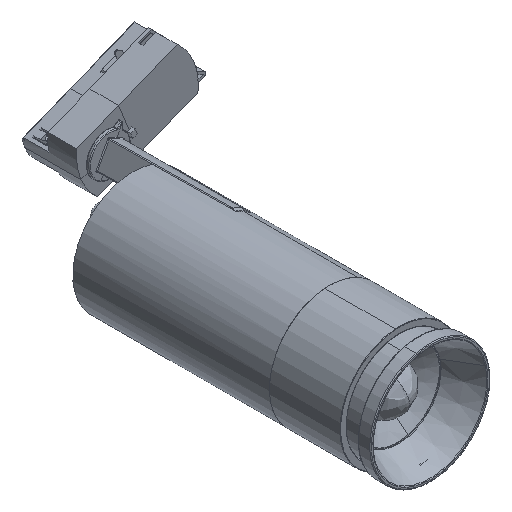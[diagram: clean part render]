
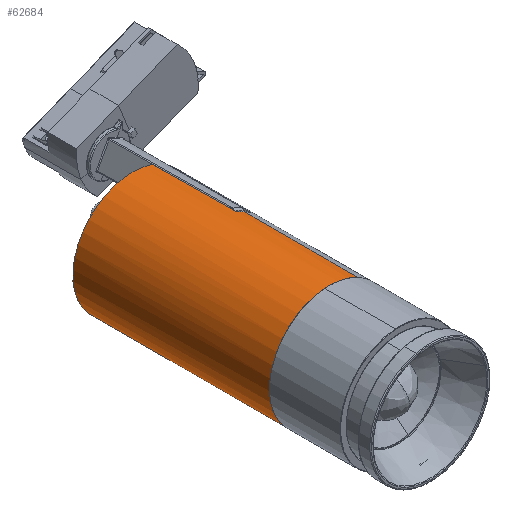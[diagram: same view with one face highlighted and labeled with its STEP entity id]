
A CAD part, isometric view. The second image highlights one B-rep face of the part: STEP entity #62684.
In plain terms, the highlighted cylindrical face has radius 36.4 mm (diameter 72.8 mm), a partial arc.
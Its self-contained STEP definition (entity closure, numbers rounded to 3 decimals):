
#1407 = AXIS2_PLACEMENT_3D ( 'NONE', #88834, #113769, #163424 ) ;
#3470 = AXIS2_PLACEMENT_3D ( 'NONE', #116935, #189360, #215324 ) ;
#4759 = CARTESIAN_POINT ( 'NONE',  ( 4.814, 49.781, 36.08 ) ) ;
#6800 = CYLINDRICAL_SURFACE ( 'NONE', #1407, 36.4 ) ;
#9910 = ORIENTED_EDGE ( 'NONE', *, *, #86764, .F. ) ;
#24235 = CARTESIAN_POINT ( 'NONE',  ( 5.147, 32.981, 36.036 ) ) ;
#25148 = CARTESIAN_POINT ( 'NONE',  ( 0., 50.5, 0. ) ) ;
#27458 = CARTESIAN_POINT ( 'NONE',  ( 5.474, 16.473, 35.988 ) ) ;
#30107 = FACE_OUTER_BOUND ( 'NONE', #258178, .T. ) ;
#36418 = ORIENTED_EDGE ( 'NONE', *, *, #225653, .T. ) ;
#37042 = CARTESIAN_POINT ( 'NONE',  ( 0., 50.5, 36.4 ) ) ;
#41240 = EDGE_CURVE ( 'NONE', #164980, #252282, #287509, .T. ) ;
#43424 = EDGE_CURVE ( 'NONE', #205032, #97756, #121392, .T. ) ;
#54213 = DIRECTION ( 'NONE',  ( 0., 1., 0. ) ) ;
#54655 = AXIS2_PLACEMENT_3D ( 'NONE', #25148, #54213, #276956 ) ;
#54686 = CIRCLE ( 'NONE', #54655, 36.4 ) ;
#56586 = CARTESIAN_POINT ( 'NONE',  ( 4.819, 49.52, 36.08 ) ) ;
#60956 = VERTEX_POINT ( 'NONE', #37042 ) ;
#62684 = ADVANCED_FACE ( 'NONE', ( #30107 ), #6800, .T. ) ;
#77047 = CARTESIAN_POINT ( 'NONE',  ( 5.8, 0., 35.935 ) ) ;
#86764 = EDGE_CURVE ( 'NONE', #60956, #97756, #134852, .T. ) ;
#88834 = CARTESIAN_POINT ( 'NONE',  ( 0., 146.176, 0. ) ) ;
#95276 = CARTESIAN_POINT ( 'NONE',  ( 0., 119.4, 36.4 ) ) ;
#97079 = DIRECTION ( 'NONE',  ( 0., 0., 1. ) ) ;
#97756 = VERTEX_POINT ( 'NONE', #95276 ) ;
#99204 = EDGE_CURVE ( 'NONE', #252282, #277017, #133949, .T. ) ;
#109334 = ORIENTED_EDGE ( 'NONE', *, *, #132237, .T. ) ;
#111064 = CARTESIAN_POINT ( 'NONE',  ( 0., 0., -36.4 ) ) ;
#112181 = ORIENTED_EDGE ( 'NONE', *, *, #278705, .T. ) ;
#113769 = DIRECTION ( 'NONE',  ( 0., 1., 0. ) ) ;
#116935 = CARTESIAN_POINT ( 'NONE',  ( 0., 0., 0. ) ) ;
#121392 = CIRCLE ( 'NONE', #208826, 36.4 ) ;
#123897 = CARTESIAN_POINT ( 'NONE',  ( 5.8, 0., 35.935 ) ) ;
#126806 = VECTOR ( 'NONE', #307933, 1000. ) ;
#128990 = CARTESIAN_POINT ( 'NONE',  ( 3.95, 50.5, 36.185 ) ) ;
#132237 = EDGE_CURVE ( 'NONE', #60956, #153491, #54686, .T. ) ;
#133949 = CIRCLE ( 'NONE', #3470, 36.4 ) ;
#134852 = LINE ( 'NONE', #236585, #126806 ) ;
#136610 = ORIENTED_EDGE ( 'NONE', *, *, #41240, .T. ) ;
#151681 = CARTESIAN_POINT ( 'NONE',  ( 3.82, 50.5, 36.199 ) ) ;
#153491 = VERTEX_POINT ( 'NONE', #252381 ) ;
#163424 = DIRECTION ( 'NONE',  ( 0., 0., 1. ) ) ;
#164980 = VERTEX_POINT ( 'NONE', #166160 ) ;
#166160 = CARTESIAN_POINT ( 'NONE',  ( 4.819, 49.52, 36.08 ) ) ;
#176562 = CARTESIAN_POINT ( 'NONE',  ( 4.426, 50.305, 36.13 ) ) ;
#180473 = CARTESIAN_POINT ( 'NONE',  ( 0., 119.4, -36.4 ) ) ;
#189360 = DIRECTION ( 'NONE',  ( 0., 1., 0. ) ) ;
#203595 = CARTESIAN_POINT ( 'NONE',  ( 4.703, 50.035, 36.095 ) ) ;
#205032 = VERTEX_POINT ( 'NONE', #180473 ) ;
#208826 = AXIS2_PLACEMENT_3D ( 'NONE', #245305, #244240, #97079 ) ;
#215324 = DIRECTION ( 'NONE',  ( 0., 0., 1. ) ) ;
#225653 = EDGE_CURVE ( 'NONE', #277017, #205032, #265334, .T. ) ;
#228545 = CARTESIAN_POINT ( 'NONE',  ( 4.077, 50.475, 36.171 ) ) ;
#236585 = CARTESIAN_POINT ( 'NONE',  ( 0., 146.176, 36.4 ) ) ;
#244240 = DIRECTION ( 'NONE',  ( 0., -1., 0. ) ) ;
#245305 = CARTESIAN_POINT ( 'NONE',  ( 0., 119.4, 0. ) ) ;
#252282 = VERTEX_POINT ( 'NONE', #123897 ) ;
#252381 = CARTESIAN_POINT ( 'NONE',  ( 3.82, 50.5, 36.199 ) ) ;
#254059 = CARTESIAN_POINT ( 'NONE',  ( 0., 146.176, -36.4 ) ) ;
#256425 = ORIENTED_EDGE ( 'NONE', *, *, #99204, .T. ) ;
#258178 = EDGE_LOOP ( 'NONE', ( #256425, #36418, #305653, #9910, #109334, #112181, #136610 ) ) ;
#265334 = LINE ( 'NONE', #254059, #319300 ) ;
#276796 = DIRECTION ( 'NONE',  ( 0., 1., 0. ) ) ;
#276956 = DIRECTION ( 'NONE',  ( 0., 0., 1. ) ) ;
#277017 = VERTEX_POINT ( 'NONE', #111064 ) ;
#278705 = EDGE_CURVE ( 'NONE', #153491, #164980, #304348, .T. ) ;
#287509 =( BOUNDED_CURVE ( )  B_SPLINE_CURVE ( 3, ( #299838, #24235, #27458, #77047 ),
 .UNSPECIFIED., .F., .F. ) 
 B_SPLINE_CURVE_WITH_KNOTS ( ( 4, 4 ),
 ( 1.704, 1.731 ),
 .UNSPECIFIED. ) 
 CURVE ( )  GEOMETRIC_REPRESENTATION_ITEM ( )  RATIONAL_B_SPLINE_CURVE ( ( 1., 1., 1., 1. ) ) 
 REPRESENTATION_ITEM ( '' )  );
#299838 = CARTESIAN_POINT ( 'NONE',  ( 4.819, 49.52, 36.08 ) ) ;
#302023 = CARTESIAN_POINT ( 'NONE',  ( 4.317, 50.377, 36.143 ) ) ;
#304348 = B_SPLINE_CURVE_WITH_KNOTS ( 'NONE', 3,
 ( #151681, #128990, #228545, #302023, #176562, #203595, #4759, #56586 ),
 .UNSPECIFIED., .F., .F.,
 ( 4, 2, 2, 4 ),
 ( 0., 0., 0.001, 0.002 ),
 .UNSPECIFIED. ) ;
#305653 = ORIENTED_EDGE ( 'NONE', *, *, #43424, .T. ) ;
#307933 = DIRECTION ( 'NONE',  ( 0., 1., 0. ) ) ;
#319300 = VECTOR ( 'NONE', #276796, 1000. ) ;
